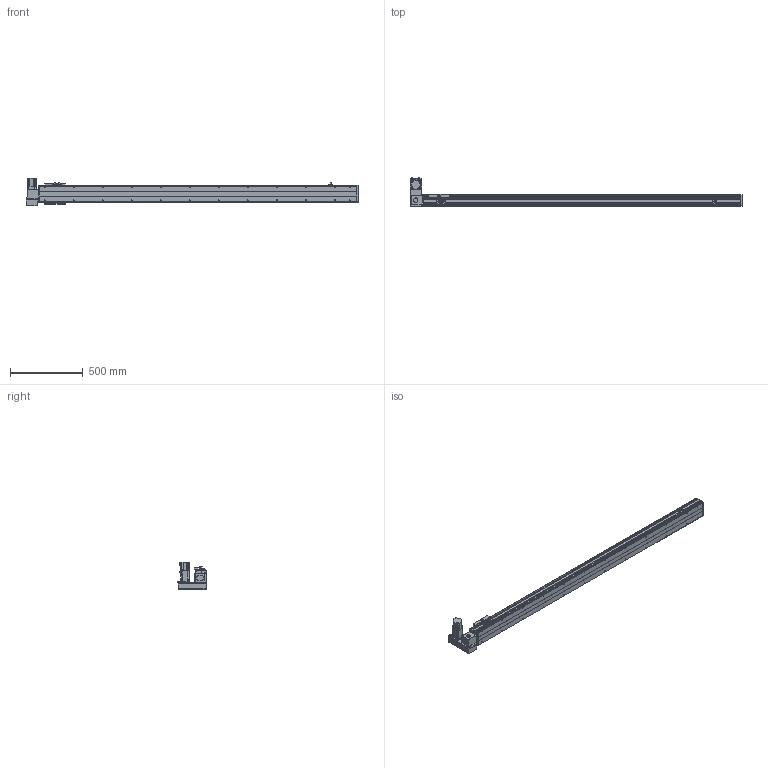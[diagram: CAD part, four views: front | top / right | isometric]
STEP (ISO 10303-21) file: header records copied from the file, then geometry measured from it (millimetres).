
FILE_DESCRIPTION( ( 'STEP AP214' ), '1' );
FILE_NAME( 'x:/temp/worker_27/temp/exporttempdir_6708_122_8DYWm/format_0/PBS120-P40-S1900-LU-T40-C1-N(0).stp', '2022-06-06T00:33:14', ( 'License CC BY-ND 4.0' ), ( 'CADENAS' ), ' ', 'PARTsolutions', ' ' );
FILE_SCHEMA( ( 'AUTOMOTIVE_DESIGN { 1 0 10303 214 1 1 1 1 }' ) );
Length unit declared in the file: millimetre
Products named in the file (7): PBS120-P40-S1900-LU-T40-C1-N(0); _PBS120-S1900()_body; _PBS120T-LU_motors; _T40-p1; _PBS120_sliser; _PBS120_plant; _PBS120_sensor
Assembly tree (8 placements, depth 2):
  PBS120-P40-S1900-LU-T40-C1-N(0)
    _PBS120-S1900()_body
    _PBS120T-LU_motors
    _T40-p1
    _PBS120_sliser
    _PBS120_plant
    _PBS120_sensor  x3
Bounding box: 2286 x 198 x 189.7 mm (x, y, z)
Volume: 8890646.9 mm3; surface area: 1810167.7 mm2
Topology: 8 solids, 8 shells, 852 faces, 2196 edges, 1411 vertices
Faces by surface type: plane 557, cylinder 237, cone 56, torus 2
Full cylindrical faces by diameter (mm): 2.459 x6, 3.242 x4, 4 x2, 4.134 x4, 4.5 x10, 4.917 x28, 5.5 x11, 6 x2, 6.6 x1, 7 x2, 8.5 x4, 9 x4, 12 x1, 14 x1, 30 x2, 40 x1, 50 x2
Entity records: 27996 total; most frequent: DIRECTION 3836, CARTESIAN_POINT 3749, ORIENTED_EDGE 3550, EDGE_CURVE 1775, AXIS2_PLACEMENT_3D 1304, LINE 1228, VECTOR 1228, VERTEX_POINT 1217
